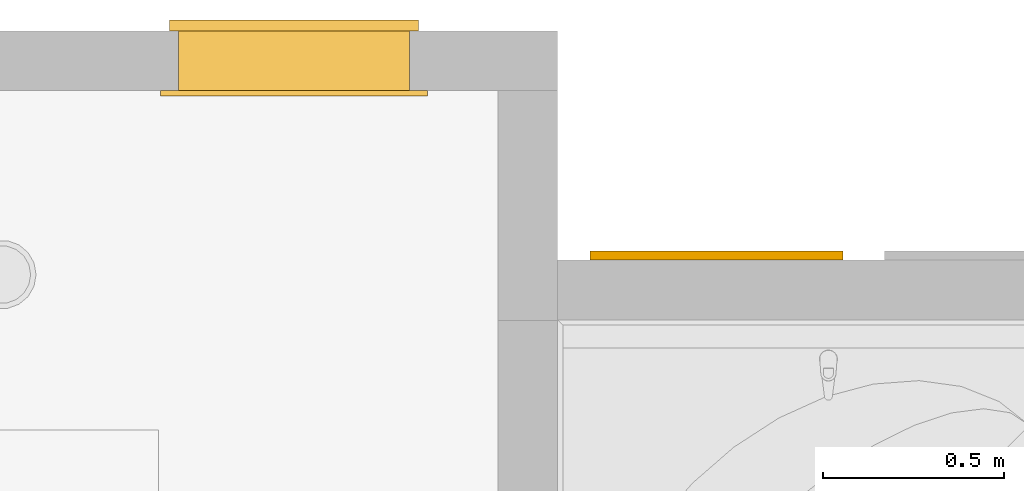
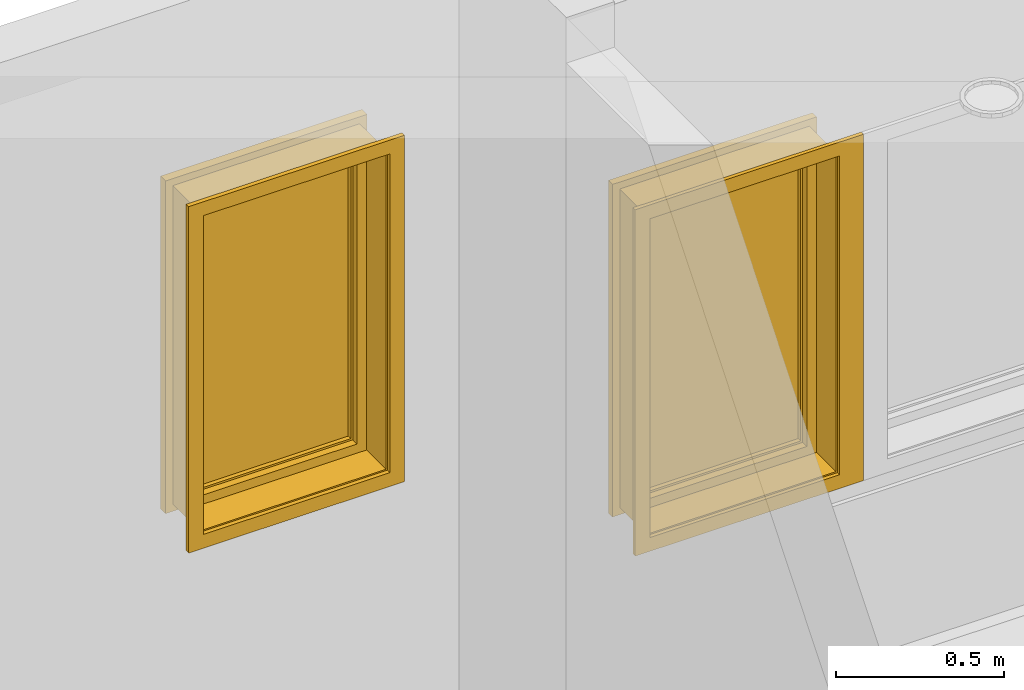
# One storey, part 37 of 77: 2 windows.
"""IFC2X3 building model written with IfcOpenShell, lengths in inches."""

from ifc_helpers import new_model, entity, si_unit, converted_unit, derived_unit, money_unit, direction, frame, origin_with_axes, place, context, subcontext, project, spatial, open_shell, faceted_brep, surface_model, type_object, element, save


model = new_model("IFC2X3")

# Units and contexts
model_context = context("Model", 3, precision=0.000393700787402, world=origin_with_axes(), true_north=direction((0.0, 1.0)))
body_context = subcontext(model_context, "Body", "Model", "MODEL_VIEW")
ifc_project = project(units=[converted_unit("LENGTHUNIT", "INCH", entity("IfcPositiveLengthMeasure", 0.0254), si_unit("LENGTHUNIT", "METRE"), dimensions=[1, 0, 0, 0, 0, 0, 0]), converted_unit("AREAUNIT", "SQUARE_FOOT", entity("IfcPositiveLengthMeasure", 0.09290304), si_unit("AREAUNIT", "SQUARE_METRE"), dimensions=[2, 0, 0, 0, 0, 0, 0]), si_unit("PLANEANGLEUNIT", "RADIAN"), si_unit("SOLIDANGLEUNIT", "STERADIAN"), money_unit("USD"), converted_unit("TIMEUNIT", "Year", entity("IfcTimeMeasure", 31556926.0), si_unit("TIMEUNIT", "SECOND"), dimensions=[0, 0, 1, 0, 0, 0, 0]), si_unit("MASSUNIT", "GRAM", prefix="KILO"), si_unit("THERMODYNAMICTEMPERATUREUNIT", "DEGREE_CELSIUS"), si_unit("LUMINOUSINTENSITYUNIT", "LUMEN"), si_unit("ENERGYUNIT", "JOULE", prefix="MEGA"), derived_unit("THERMALCONDUCTANCEUNIT", [(si_unit("POWERUNIT", "WATT"), 1), (si_unit("LENGTHUNIT", "METRE"), -1), (si_unit("THERMODYNAMICTEMPERATUREUNIT", "KELVIN"), -1)]), derived_unit("SPECIFICHEATCAPACITYUNIT", [(si_unit("ENERGYUNIT", "JOULE"), 1), (si_unit("MASSUNIT", "GRAM", prefix="KILO"), -1), (si_unit("THERMODYNAMICTEMPERATUREUNIT", "KELVIN"), -1)]), derived_unit("MASSDENSITYUNIT", [(si_unit("MASSUNIT", "GRAM", prefix="KILO"), 1), (si_unit("VOLUMEUNIT", "CUBIC_METRE"), -1)])], contexts=[model_context])

# Site, building, storey
site_placement = place(None, origin_with_axes())
site = spatial("IfcSite", under=ifc_project, at=site_placement, Name="Site", CompositionType="ELEMENT")
building_placement = place(site_placement, origin_with_axes())
building = spatial("IfcBuilding", under=site, at=building_placement, Name="Building", CompositionType="ELEMENT")
storey_placement = place(building_placement, frame((0.0, 0.0, 127.952755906), z_axis=(0.0, 0.0, 1.0), x_axis=(1.0, 0.0, 0.0)))
storey = spatial("IfcBuildingStorey", under=building, at=storey_placement, Name="Second Floor", CompositionType="ELEMENT", Elevation=127.953)

# Windows
window_style_1 = type_object("IfcWindowStyle", Name="Window 25", ConstructionType="NOTDEFINED", OperationType="SINGLE_PANEL", ParameterTakesPrecedence=False, Sizeable=False)
window_1_placement = place(storey_placement, frame((417.766912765, 582.981927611, 48.2283464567), z_axis=(0.0, 0.0, 1.0), x_axis=(1.0, 0.0, 0.0)))
element("IfcWindow", 1, at=window_1_placement, inside=storey, type_object=window_style_1, Name="W-32", OverallHeight=45.4724, OverallWidth=25.5906, context=body_context, shape_type="SurfaceModel", body=[
    faceted_brep([(25.5905511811, 4.53149606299, 0.0), (25.5905511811, 0.0, 0.0), (0.0, 0.0, 0.0), (0.0, 4.53149606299, 0.0), (25.5905511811, 4.53149606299, 45.4724409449), (25.5905511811, 0.0, 45.4724409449), (0.0, 0.0, 45.4724409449), (25.3937007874, 0.0, 0.196850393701), (0.196850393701, 0.0, 0.196850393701), (0.196850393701, 0.0, 45.2755905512), (25.3937007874, 0.0, 45.2755905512), (0.0, 4.53149606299, 45.4724409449), (25.3937007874, 4.53149606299, 0.196850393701), (25.3937007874, 4.53149606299, 45.2755905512), (0.196850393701, 4.53149606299, 45.2755905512), (0.196850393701, 4.53149606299, 0.196850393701)], [[[0, 1, 2, 3]], [[4, 5, 1, 0]], [[1, 5, 6, 2], [7, 8, 9, 10]], [[3, 2, 6, 11]], [[0, 3, 11, 4], [12, 13, 14, 15]], [[11, 6, 5, 4]], [[15, 8, 7, 12]], [[14, 9, 8, 15]], [[13, 10, 9, 14]], [[12, 7, 10, 13]]]),
    faceted_brep([(28.8188976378, -0.511811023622, -1.96850393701), (25.5905511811, -0.511811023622, 0.0), (25.5905511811, 0.0, 0.0), (28.8188976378, 0.0, -1.96850393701), (28.8188976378, -0.511811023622, 47.4409448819), (25.5905511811, -0.511811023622, 45.4724409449), (25.5905511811, 0.0, 45.4724409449), (28.8188976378, 0.0, 47.4409448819)], [[[0, 1, 2, 3]], [[0, 4, 5, 1]], [[1, 5, 6, 2]], [[3, 2, 6, 7]], [[4, 0, 3, 7]], [[5, 4, 7, 6]]]),
    faceted_brep([(-1.96850393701, -0.511811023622, 47.4409448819), (0.0, -0.511811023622, 45.4724409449), (0.0, 0.0, 45.4724409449), (-1.96850393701, 0.0, 47.4409448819), (-1.96850393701, -0.511811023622, -1.96850393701), (0.0, -0.511811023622, 0.0), (0.0, 0.0, 0.0), (-1.96850393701, 0.0, -1.96850393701)], [[[0, 1, 2, 3]], [[0, 4, 5, 1]], [[1, 5, 6, 2]], [[3, 2, 6, 7]], [[4, 0, 3, 7]], [[5, 4, 7, 6]]]),
    faceted_brep([(-1.96850393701, -0.511811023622, -1.96850393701), (0.0, -0.511811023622, 0.0), (0.0, 0.0, 0.0), (-1.96850393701, 0.0, -1.96850393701), (28.8188976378, -0.511811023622, -1.96850393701), (25.5905511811, -0.511811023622, 0.0), (25.5905511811, 0.0, 0.0), (28.8188976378, 0.0, -1.96850393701)], [[[0, 1, 2, 3]], [[0, 4, 5, 1]], [[1, 5, 6, 2]], [[3, 2, 6, 7]], [[4, 0, 3, 7]], [[5, 4, 7, 6]]]),
    faceted_brep([(28.8188976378, -0.511811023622, 47.4409448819), (25.5905511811, -0.511811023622, 45.4724409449), (25.5905511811, 0.0, 45.4724409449), (28.8188976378, 0.0, 47.4409448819), (-1.96850393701, -0.511811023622, 47.4409448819), (0.0, -0.511811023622, 45.4724409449), (0.0, 0.0, 45.4724409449), (-1.96850393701, 0.0, 47.4409448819)], [[[0, 1, 2, 3]], [[0, 4, 5, 1]], [[1, 5, 6, 2]], [[3, 2, 6, 7]], [[4, 0, 3, 7]], [[5, 4, 7, 6]]]),
    faceted_brep([(26.5748031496, 7.4842519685, -0.984251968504), (26.5748031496, 6.5, -0.984251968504), (24.6062992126, 6.5, 0.984251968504), (24.6062992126, 7.4842519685, 0.984251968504), (26.5748031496, 7.4842519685, 46.4566929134), (26.5748031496, 6.5, 46.4566929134), (24.6062992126, 6.5, 44.4881889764), (24.6062992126, 7.4842519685, 44.4881889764)], [[[0, 1, 2, 3]], [[4, 5, 1, 0]], [[1, 5, 6, 2]], [[3, 2, 6, 7]], [[0, 3, 7, 4]], [[7, 6, 5, 4]]]),
    faceted_brep([(-0.984251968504, 7.4842519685, 46.4566929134), (-0.984251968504, 6.5, 46.4566929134), (0.984251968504, 6.5, 44.4881889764), (0.984251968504, 7.4842519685, 44.4881889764), (-0.984251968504, 7.4842519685, -0.984251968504), (-0.984251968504, 6.5, -0.984251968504), (0.984251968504, 6.5, 0.984251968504), (0.984251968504, 7.4842519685, 0.984251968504)], [[[0, 1, 2, 3]], [[4, 5, 1, 0]], [[1, 5, 6, 2]], [[3, 2, 6, 7]], [[0, 3, 7, 4]], [[7, 6, 5, 4]]]),
    faceted_brep([(-0.984251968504, 7.4842519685, -0.984251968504), (-0.984251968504, 6.5, -0.984251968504), (0.984251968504, 6.5, 0.984251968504), (0.984251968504, 7.4842519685, 0.984251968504), (26.5748031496, 7.4842519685, -0.984251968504), (26.5748031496, 6.5, -0.984251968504), (24.6062992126, 6.5, 0.984251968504), (24.6062992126, 7.4842519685, 0.984251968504)], [[[0, 1, 2, 3]], [[4, 5, 1, 0]], [[1, 5, 6, 2]], [[3, 2, 6, 7]], [[0, 3, 7, 4]], [[7, 6, 5, 4]]]),
    faceted_brep([(26.5748031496, 7.4842519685, 46.4566929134), (26.5748031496, 6.5, 46.4566929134), (24.6062992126, 6.5, 44.4881889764), (24.6062992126, 7.4842519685, 44.4881889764), (-0.984251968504, 7.4842519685, 46.4566929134), (-0.984251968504, 6.5, 46.4566929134), (0.984251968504, 6.5, 44.4881889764), (0.984251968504, 7.4842519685, 44.4881889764)], [[[0, 1, 2, 3]], [[4, 5, 1, 0]], [[1, 5, 6, 2]], [[3, 2, 6, 7]], [[0, 3, 7, 4]], [[7, 6, 5, 4]]]),
    faceted_brep([(25.0787401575, 6.5, 43.9763779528), (25.0787401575, 5.5157480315, 43.9763779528), (24.094488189, 5.5157480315, 43.9763779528), (24.094488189, 4.53149606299, 43.9763779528), (25.5905511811, 4.53149606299, 43.9763779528), (25.5905511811, 6.5, 43.9763779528), (25.0787401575, 6.5, 1.49606299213), (25.0787401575, 5.5157480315, 1.49606299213), (24.094488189, 5.5157480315, 1.49606299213), (24.094488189, 4.53149606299, 1.49606299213), (25.5905511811, 4.53149606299, 1.49606299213), (25.5905511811, 6.5, 1.49606299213)], [[[0, 1, 2, 3, 4, 5]], [[1, 0, 6, 7]], [[8, 2, 1, 7]], [[2, 8, 9, 3]], [[4, 3, 9, 10]], [[5, 4, 10, 11]], [[6, 0, 5, 11]], [[7, 6, 11, 10, 9, 8]]]),
    faceted_brep([(1.49606299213, 5.5157480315, 43.9763779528), (0.511811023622, 5.5157480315, 43.9763779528), (0.511811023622, 6.5, 43.9763779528), (0.0, 6.5, 43.9763779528), (0.0, 4.53149606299, 43.9763779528), (1.49606299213, 4.53149606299, 43.9763779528), (1.49606299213, 5.5157480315, 1.49606299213), (0.511811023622, 5.5157480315, 1.49606299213), (0.511811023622, 6.5, 1.49606299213), (0.0, 6.5, 1.49606299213), (0.0, 4.53149606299, 1.49606299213), (1.49606299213, 4.53149606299, 1.49606299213)], [[[0, 1, 2, 3, 4, 5]], [[1, 0, 6, 7]], [[8, 2, 1, 7]], [[2, 8, 9, 3]], [[9, 10, 4, 3]], [[10, 11, 5, 4]], [[6, 0, 5, 11]], [[7, 6, 11, 10, 9, 8]]]),
    faceted_brep([(1.49606299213, 5.5157480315, 1.49606299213), (0.511811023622, 5.5157480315, 1.49606299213), (0.511811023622, 6.5, 1.49606299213), (0.0, 6.5, 1.49606299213), (0.0, 4.53149606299, 1.49606299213), (1.49606299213, 4.53149606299, 1.49606299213), (24.094488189, 5.5157480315, 1.49606299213), (25.0787401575, 5.5157480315, 1.49606299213), (25.0787401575, 5.5157480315, 0.511811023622), (0.511811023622, 5.5157480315, 0.511811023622), (0.511811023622, 6.5, 0.511811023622), (25.0787401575, 6.5, 0.511811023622), (25.0787401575, 6.5, 1.49606299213), (25.5905511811, 6.5, 1.49606299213), (25.5905511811, 6.5, 0.0), (0.0, 6.5, 0.0), (0.0, 4.53149606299, 0.0), (25.5905511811, 4.53149606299, 1.49606299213), (24.094488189, 4.53149606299, 1.49606299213), (25.5905511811, 4.53149606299, 0.0)], [[[0, 1, 2, 3, 4, 5]], [[1, 0, 6, 7, 8, 9]], [[10, 2, 1, 9]], [[11, 12, 13, 14, 15, 3, 2, 10]], [[15, 16, 4, 3]], [[17, 18, 5, 4, 16, 19]], [[6, 0, 5, 18]], [[7, 6, 18, 17, 13, 12]], [[7, 12, 11, 8]], [[11, 10, 9, 8]], [[13, 17, 19, 14]], [[14, 19, 16, 15]]]),
    faceted_brep([(25.0787401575, 6.5, 43.9763779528), (25.0787401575, 6.5, 44.9606299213), (0.511811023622, 6.5, 44.9606299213), (0.511811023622, 6.5, 43.9763779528), (0.0, 6.5, 43.9763779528), (0.0, 6.5, 45.4724409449), (25.5905511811, 6.5, 45.4724409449), (25.5905511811, 6.5, 43.9763779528), (25.0787401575, 5.5157480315, 43.9763779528), (25.0787401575, 5.5157480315, 44.9606299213), (0.511811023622, 5.5157480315, 44.9606299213), (0.511811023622, 5.5157480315, 43.9763779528), (1.49606299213, 5.5157480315, 43.9763779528), (1.49606299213, 4.53149606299, 43.9763779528), (0.0, 4.53149606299, 43.9763779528), (0.0, 4.53149606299, 45.4724409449), (25.5905511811, 4.53149606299, 45.4724409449), (25.5905511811, 4.53149606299, 43.9763779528), (24.094488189, 4.53149606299, 43.9763779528), (24.094488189, 5.5157480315, 43.9763779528)], [[[0, 1, 2, 3, 4, 5, 6, 7]], [[1, 0, 8, 9]], [[2, 1, 9, 10]], [[3, 2, 10, 11]], [[11, 12, 13, 14, 4, 3]], [[4, 14, 15, 5]], [[5, 15, 16, 6]], [[6, 16, 17, 7]], [[8, 0, 7, 17, 18, 19]], [[12, 11, 10, 9, 8, 19]], [[12, 19, 18, 13]], [[14, 13, 18, 17, 16, 15]]]),
    faceted_brep([(23.8188976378, 5.5157480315, 43.7007874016), (25.0787401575, 5.5157480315, 43.7007874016), (25.0787401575, 7.4842519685, 43.7007874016), (23.8188976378, 7.4842519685, 43.7007874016), (23.8188976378, 5.5157480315, 1.77165354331), (25.0787401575, 5.5157480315, 1.77165354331), (25.0787401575, 7.4842519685, 1.77165354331), (23.8188976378, 7.4842519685, 1.77165354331)], [[[0, 1, 2, 3]], [[0, 4, 5, 1]], [[1, 5, 6, 2]], [[3, 2, 6, 7]], [[4, 0, 3, 7]], [[5, 4, 7, 6]]]),
    faceted_brep([(1.77165354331, 5.5157480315, 1.77165354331), (0.511811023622, 5.5157480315, 1.77165354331), (0.511811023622, 7.4842519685, 1.77165354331), (1.77165354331, 7.4842519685, 1.77165354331), (1.77165354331, 5.5157480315, 43.7007874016), (0.511811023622, 5.5157480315, 43.7007874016), (0.511811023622, 7.4842519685, 43.7007874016), (1.77165354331, 7.4842519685, 43.7007874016)], [[[0, 1, 2, 3]], [[0, 4, 5, 1]], [[1, 5, 6, 2]], [[3, 2, 6, 7]], [[4, 0, 3, 7]], [[5, 4, 7, 6]]]),
    faceted_brep([(0.511811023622, 5.5157480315, 0.511811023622), (0.511811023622, 5.5157480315, 1.77165354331), (0.511811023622, 7.4842519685, 1.77165354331), (0.511811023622, 7.4842519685, 0.511811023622), (25.0787401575, 5.5157480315, 0.511811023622), (25.0787401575, 5.5157480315, 1.77165354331), (23.8188976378, 5.5157480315, 1.77165354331), (1.77165354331, 5.5157480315, 1.77165354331), (1.77165354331, 7.4842519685, 1.77165354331), (23.8188976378, 7.4842519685, 1.77165354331), (25.0787401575, 7.4842519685, 1.77165354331), (25.0787401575, 7.4842519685, 0.511811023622)], [[[0, 1, 2, 3]], [[0, 4, 5, 6, 7, 1]], [[1, 7, 8, 2]], [[3, 2, 8, 9, 10, 11]], [[4, 0, 3, 11]], [[5, 4, 11, 10]], [[6, 5, 10, 9]], [[7, 6, 9, 8]]]),
    faceted_brep([(25.0787401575, 5.5157480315, 44.9606299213), (25.0787401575, 5.5157480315, 43.7007874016), (25.0787401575, 7.4842519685, 43.7007874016), (25.0787401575, 7.4842519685, 44.9606299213), (0.511811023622, 5.5157480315, 44.9606299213), (0.511811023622, 5.5157480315, 43.7007874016), (1.77165354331, 5.5157480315, 43.7007874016), (23.8188976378, 5.5157480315, 43.7007874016), (23.8188976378, 7.4842519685, 43.7007874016), (1.77165354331, 7.4842519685, 43.7007874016), (0.511811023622, 7.4842519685, 43.7007874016), (0.511811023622, 7.4842519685, 44.9606299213)], [[[0, 1, 2, 3]], [[0, 4, 5, 6, 7, 1]], [[1, 7, 8, 2]], [[3, 2, 8, 9, 10, 11]], [[4, 0, 3, 11]], [[5, 4, 11, 10]], [[6, 5, 10, 9]], [[7, 6, 9, 8]]]),
    surface_model("IfcShellBasedSurfaceModel", [(23.8188976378, 6.1062992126, 1.77165354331), (23.8188976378, 6.1062992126, 43.7007874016), (1.77165354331, 6.1062992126, 43.7007874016), (1.77165354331, 6.1062992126, 1.77165354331)], [open_shell([[[0, 1, 2, 3]]])]),
    surface_model("IfcShellBasedSurfaceModel", [(23.8188976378, 6.8937007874, 1.77165354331), (1.77165354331, 6.8937007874, 1.77165354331), (1.77165354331, 6.8937007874, 43.7007874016), (23.8188976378, 6.8937007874, 43.7007874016)], [open_shell([[[0, 1, 2, 3]]])]),
])
window_style_2 = type_object("IfcWindowStyle", Name="Window 25", ConstructionType="NOTDEFINED", OperationType="SINGLE_PANEL", ParameterTakesPrecedence=False, Sizeable=False)
window_2_placement = place(storey_placement, frame((371.908723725, 607.989865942, 49.6062992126), z_axis=(0.0, 0.0, 1.0), x_axis=(1.0, 0.0, 0.0)))
element("IfcWindow", 2, at=window_2_placement, inside=storey, type_object=window_style_2, Name="W-28", OverallHeight=45.4724, OverallWidth=25.1969, context=body_context, shape_type="SurfaceModel", body=[
    faceted_brep([(0.0, 4.53149606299, 0.0), (25.1968503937, 4.53149606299, 0.0), (25.1968503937, 0.0, 0.0), (0.0, 0.0, 0.0), (0.0, 4.53149606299, 45.4724409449), (25.1968503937, 4.53149606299, 45.4724409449), (0.196850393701, 4.53149606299, 0.196850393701), (25.0, 4.53149606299, 0.196850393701), (25.0, 4.53149606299, 45.2755905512), (0.196850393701, 4.53149606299, 45.2755905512), (25.1968503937, 0.0, 45.4724409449), (0.0, 0.0, 45.4724409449), (0.196850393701, 0.0, 0.196850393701), (0.196850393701, 0.0, 45.2755905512), (25.0, 0.0, 45.2755905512), (25.0, 0.0, 0.196850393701)], [[[0, 1, 2, 3]], [[0, 4, 5, 1], [6, 7, 8, 9]], [[1, 5, 10, 2]], [[3, 2, 10, 11], [12, 13, 14, 15]], [[4, 0, 3, 11]], [[5, 4, 11, 10]], [[7, 6, 12, 15]], [[8, 7, 15, 14]], [[9, 8, 14, 13]], [[6, 9, 13, 12]]]),
    faceted_brep([(-1.96850393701, -0.590551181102, -1.96850393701), (-1.96850393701, 0.0, -1.96850393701), (0.0, 0.0, 0.0), (0.0, -0.590551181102, 0.0), (-1.96850393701, -0.590551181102, 47.4409448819), (-1.96850393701, 0.0, 47.4409448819), (0.0, 0.0, 45.4724409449), (0.0, -0.590551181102, 45.4724409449)], [[[0, 1, 2, 3]], [[4, 5, 1, 0]], [[1, 5, 6, 2]], [[3, 2, 6, 7]], [[0, 3, 7, 4]], [[7, 6, 5, 4]]]),
    faceted_brep([(27.1653543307, -0.590551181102, 47.4409448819), (27.1653543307, 0.0, 47.4409448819), (25.1968503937, 0.0, 45.4724409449), (25.1968503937, -0.590551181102, 45.4724409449), (27.1653543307, -0.590551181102, -1.96850393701), (27.1653543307, 0.0, -1.96850393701), (25.1968503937, 0.0, 0.0), (25.1968503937, -0.590551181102, 0.0)], [[[0, 1, 2, 3]], [[4, 5, 1, 0]], [[1, 5, 6, 2]], [[3, 2, 6, 7]], [[0, 3, 7, 4]], [[7, 6, 5, 4]]]),
    faceted_brep([(27.1653543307, -0.590551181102, -1.96850393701), (27.1653543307, 0.0, -1.96850393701), (25.1968503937, 0.0, 0.0), (25.1968503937, -0.590551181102, 0.0), (-1.96850393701, -0.590551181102, -1.96850393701), (-1.96850393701, 0.0, -1.96850393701), (0.0, 0.0, 0.0), (0.0, -0.590551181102, 0.0)], [[[0, 1, 2, 3]], [[4, 5, 1, 0]], [[1, 5, 6, 2]], [[3, 2, 6, 7]], [[0, 3, 7, 4]], [[7, 6, 5, 4]]]),
    faceted_brep([(-1.96850393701, -0.590551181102, 47.4409448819), (-1.96850393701, 0.0, 47.4409448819), (0.0, 0.0, 45.4724409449), (0.0, -0.590551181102, 45.4724409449), (27.1653543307, -0.590551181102, 47.4409448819), (27.1653543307, 0.0, 47.4409448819), (25.1968503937, 0.0, 45.4724409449), (25.1968503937, -0.590551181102, 45.4724409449)], [[[0, 1, 2, 3]], [[4, 5, 1, 0]], [[1, 5, 6, 2]], [[3, 2, 6, 7]], [[0, 3, 7, 4]], [[7, 6, 5, 4]]]),
    faceted_brep([(-0.984251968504, 7.6811023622, -0.984251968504), (0.984251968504, 7.6811023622, 0.984251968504), (0.984251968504, 6.5, 0.984251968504), (-0.984251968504, 6.5, -0.984251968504), (-0.984251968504, 7.6811023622, 46.4566929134), (0.984251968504, 7.6811023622, 44.4881889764), (0.984251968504, 6.5, 44.4881889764), (-0.984251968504, 6.5, 46.4566929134)], [[[0, 1, 2, 3]], [[0, 4, 5, 1]], [[1, 5, 6, 2]], [[3, 2, 6, 7]], [[4, 0, 3, 7]], [[5, 4, 7, 6]]]),
    faceted_brep([(26.1811023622, 7.6811023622, 46.4566929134), (24.2125984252, 7.6811023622, 44.4881889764), (24.2125984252, 6.5, 44.4881889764), (26.1811023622, 6.5, 46.4566929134), (26.1811023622, 7.6811023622, -0.984251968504), (24.2125984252, 7.6811023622, 0.984251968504), (24.2125984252, 6.5, 0.984251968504), (26.1811023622, 6.5, -0.984251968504)], [[[0, 1, 2, 3]], [[0, 4, 5, 1]], [[1, 5, 6, 2]], [[3, 2, 6, 7]], [[4, 0, 3, 7]], [[5, 4, 7, 6]]]),
    faceted_brep([(26.1811023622, 7.6811023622, -0.984251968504), (24.2125984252, 7.6811023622, 0.984251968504), (24.2125984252, 6.5, 0.984251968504), (26.1811023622, 6.5, -0.984251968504), (-0.984251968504, 7.6811023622, -0.984251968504), (0.984251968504, 7.6811023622, 0.984251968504), (0.984251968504, 6.5, 0.984251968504), (-0.984251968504, 6.5, -0.984251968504)], [[[0, 1, 2, 3]], [[0, 4, 5, 1]], [[1, 5, 6, 2]], [[3, 2, 6, 7]], [[4, 0, 3, 7]], [[5, 4, 7, 6]]]),
    faceted_brep([(-0.984251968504, 7.6811023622, 46.4566929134), (0.984251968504, 7.6811023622, 44.4881889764), (0.984251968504, 6.5, 44.4881889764), (-0.984251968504, 6.5, 46.4566929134), (26.1811023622, 7.6811023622, 46.4566929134), (24.2125984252, 7.6811023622, 44.4881889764), (24.2125984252, 6.5, 44.4881889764), (26.1811023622, 6.5, 46.4566929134)], [[[0, 1, 2, 3]], [[0, 4, 5, 1]], [[1, 5, 6, 2]], [[3, 2, 6, 7]], [[4, 0, 3, 7]], [[5, 4, 7, 6]]]),
    faceted_brep([(0.511811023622, 6.5, 43.9763779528), (0.0, 6.5, 43.9763779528), (0.0, 4.53149606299, 43.9763779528), (1.49606299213, 4.53149606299, 43.9763779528), (1.49606299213, 5.5157480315, 43.9763779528), (0.511811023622, 5.5157480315, 43.9763779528), (0.511811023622, 6.5, 1.49606299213), (0.0, 6.5, 1.49606299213), (0.0, 4.53149606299, 1.49606299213), (1.49606299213, 4.53149606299, 1.49606299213), (1.49606299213, 5.5157480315, 1.49606299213), (0.511811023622, 5.5157480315, 1.49606299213)], [[[0, 1, 2, 3, 4, 5]], [[6, 7, 1, 0]], [[1, 7, 8, 2]], [[2, 8, 9, 3]], [[4, 3, 9, 10]], [[10, 11, 5, 4]], [[5, 11, 6, 0]], [[11, 10, 9, 8, 7, 6]]]),
    faceted_brep([(23.7007874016, 5.5157480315, 43.9763779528), (23.7007874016, 4.53149606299, 43.9763779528), (25.1968503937, 4.53149606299, 43.9763779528), (25.1968503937, 6.5, 43.9763779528), (24.6850393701, 6.5, 43.9763779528), (24.6850393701, 5.5157480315, 43.9763779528), (23.7007874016, 5.5157480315, 1.49606299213), (23.7007874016, 4.53149606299, 1.49606299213), (25.1968503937, 4.53149606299, 1.49606299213), (25.1968503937, 6.5, 1.49606299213), (24.6850393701, 6.5, 1.49606299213), (24.6850393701, 5.5157480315, 1.49606299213)], [[[0, 1, 2, 3, 4, 5]], [[6, 7, 1, 0]], [[8, 2, 1, 7]], [[9, 3, 2, 8]], [[4, 3, 9, 10]], [[10, 11, 5, 4]], [[5, 11, 6, 0]], [[11, 10, 9, 8, 7, 6]]]),
    faceted_brep([(23.7007874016, 5.5157480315, 1.49606299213), (23.7007874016, 4.53149606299, 1.49606299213), (25.1968503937, 4.53149606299, 1.49606299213), (25.1968503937, 6.5, 1.49606299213), (24.6850393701, 6.5, 1.49606299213), (24.6850393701, 5.5157480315, 1.49606299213), (1.49606299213, 5.5157480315, 1.49606299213), (1.49606299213, 4.53149606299, 1.49606299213), (0.0, 4.53149606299, 1.49606299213), (0.0, 4.53149606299, 0.0), (25.1968503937, 4.53149606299, 0.0), (25.1968503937, 6.5, 0.0), (0.511811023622, 6.5, 0.511811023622), (24.6850393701, 6.5, 0.511811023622), (0.0, 6.5, 0.0), (0.0, 6.5, 1.49606299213), (0.511811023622, 6.5, 1.49606299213), (24.6850393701, 5.5157480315, 0.511811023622), (0.511811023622, 5.5157480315, 0.511811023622), (0.511811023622, 5.5157480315, 1.49606299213)], [[[0, 1, 2, 3, 4, 5]], [[6, 7, 1, 0]], [[8, 9, 10, 2, 1, 7]], [[11, 3, 2, 10]], [[12, 13, 4, 3, 11, 14, 15, 16]], [[13, 17, 5, 4]], [[5, 17, 18, 19, 6, 0]], [[19, 16, 15, 8, 7, 6]], [[15, 14, 9, 8]], [[14, 11, 10, 9]], [[12, 18, 17, 13]], [[19, 18, 12, 16]]]),
    faceted_brep([(0.511811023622, 6.5, 43.9763779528), (0.0, 6.5, 43.9763779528), (0.0, 6.5, 45.4724409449), (25.1968503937, 6.5, 45.4724409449), (25.1968503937, 6.5, 43.9763779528), (24.6850393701, 6.5, 43.9763779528), (24.6850393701, 6.5, 44.9606299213), (0.511811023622, 6.5, 44.9606299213), (0.511811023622, 5.5157480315, 43.9763779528), (1.49606299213, 5.5157480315, 43.9763779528), (1.49606299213, 4.53149606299, 43.9763779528), (0.0, 4.53149606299, 43.9763779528), (0.0, 4.53149606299, 45.4724409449), (25.1968503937, 4.53149606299, 45.4724409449), (25.1968503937, 4.53149606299, 43.9763779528), (24.6850393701, 5.5157480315, 43.9763779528), (23.7007874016, 4.53149606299, 43.9763779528), (23.7007874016, 5.5157480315, 43.9763779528), (24.6850393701, 5.5157480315, 44.9606299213), (0.511811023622, 5.5157480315, 44.9606299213)], [[[0, 1, 2, 3, 4, 5, 6, 7]], [[8, 9, 10, 11, 1, 0]], [[2, 1, 11, 12]], [[3, 2, 12, 13]], [[4, 3, 13, 14]], [[15, 5, 4, 14, 16, 17]], [[5, 15, 18, 6]], [[6, 18, 19, 7]], [[7, 19, 8, 0]], [[17, 9, 8, 19, 18, 15]], [[17, 16, 10, 9]], [[14, 13, 12, 11, 10, 16]]]),
    faceted_brep([(1.77165354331, 5.5157480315, 43.7007874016), (1.77165354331, 7.4842519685, 43.7007874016), (0.511811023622, 7.4842519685, 43.7007874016), (0.511811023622, 5.5157480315, 43.7007874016), (1.77165354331, 5.5157480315, 1.77165354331), (1.77165354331, 7.4842519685, 1.77165354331), (0.511811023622, 7.4842519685, 1.77165354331), (0.511811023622, 5.5157480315, 1.77165354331)], [[[0, 1, 2, 3]], [[4, 5, 1, 0]], [[1, 5, 6, 2]], [[3, 2, 6, 7]], [[0, 3, 7, 4]], [[7, 6, 5, 4]]]),
    faceted_brep([(23.4251968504, 5.5157480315, 1.77165354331), (23.4251968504, 7.4842519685, 1.77165354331), (24.6850393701, 7.4842519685, 1.77165354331), (24.6850393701, 5.5157480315, 1.77165354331), (23.4251968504, 5.5157480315, 43.7007874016), (23.4251968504, 7.4842519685, 43.7007874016), (24.6850393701, 7.4842519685, 43.7007874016), (24.6850393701, 5.5157480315, 43.7007874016)], [[[0, 1, 2, 3]], [[4, 5, 1, 0]], [[1, 5, 6, 2]], [[3, 2, 6, 7]], [[0, 3, 7, 4]], [[7, 6, 5, 4]]]),
    faceted_brep([(24.6850393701, 5.5157480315, 0.511811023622), (24.6850393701, 7.4842519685, 0.511811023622), (24.6850393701, 7.4842519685, 1.77165354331), (24.6850393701, 5.5157480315, 1.77165354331), (0.511811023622, 5.5157480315, 0.511811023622), (0.511811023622, 7.4842519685, 0.511811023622), (0.511811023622, 7.4842519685, 1.77165354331), (1.77165354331, 7.4842519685, 1.77165354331), (23.4251968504, 7.4842519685, 1.77165354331), (23.4251968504, 5.5157480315, 1.77165354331), (1.77165354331, 5.5157480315, 1.77165354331), (0.511811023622, 5.5157480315, 1.77165354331)], [[[0, 1, 2, 3]], [[4, 5, 1, 0]], [[1, 5, 6, 7, 8, 2]], [[3, 2, 8, 9]], [[0, 3, 9, 10, 11, 4]], [[11, 6, 5, 4]], [[10, 7, 6, 11]], [[9, 8, 7, 10]]]),
    faceted_brep([(0.511811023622, 5.5157480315, 44.9606299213), (0.511811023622, 7.4842519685, 44.9606299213), (0.511811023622, 7.4842519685, 43.7007874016), (0.511811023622, 5.5157480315, 43.7007874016), (24.6850393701, 5.5157480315, 44.9606299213), (24.6850393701, 7.4842519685, 44.9606299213), (24.6850393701, 7.4842519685, 43.7007874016), (23.4251968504, 7.4842519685, 43.7007874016), (1.77165354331, 7.4842519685, 43.7007874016), (1.77165354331, 5.5157480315, 43.7007874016), (23.4251968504, 5.5157480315, 43.7007874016), (24.6850393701, 5.5157480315, 43.7007874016)], [[[0, 1, 2, 3]], [[4, 5, 1, 0]], [[1, 5, 6, 7, 8, 2]], [[3, 2, 8, 9]], [[0, 3, 9, 10, 11, 4]], [[11, 6, 5, 4]], [[10, 7, 6, 11]], [[9, 8, 7, 10]]]),
    surface_model("IfcShellBasedSurfaceModel", [(1.77165354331, 6.1062992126, 1.77165354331), (23.4251968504, 6.1062992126, 1.77165354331), (23.4251968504, 6.1062992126, 43.7007874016), (1.77165354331, 6.1062992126, 43.7007874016)], [open_shell([[[0, 1, 2, 3]]])]),
    surface_model("IfcShellBasedSurfaceModel", [(1.77165354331, 6.8937007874, 1.77165354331), (1.77165354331, 6.8937007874, 43.7007874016), (23.4251968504, 6.8937007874, 43.7007874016), (23.4251968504, 6.8937007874, 1.77165354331)], [open_shell([[[0, 1, 2, 3]]])]),
])

save(model, "model.ifc")
